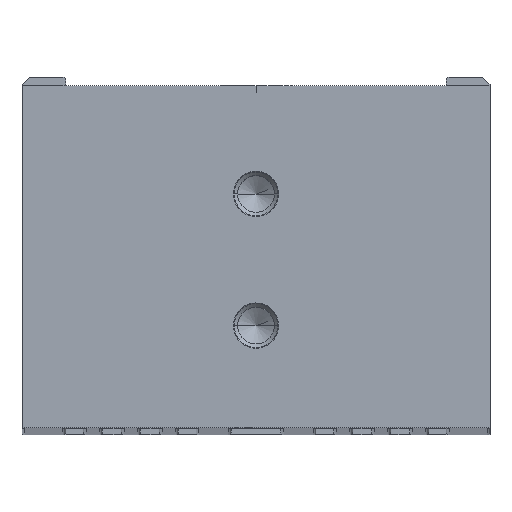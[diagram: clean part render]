
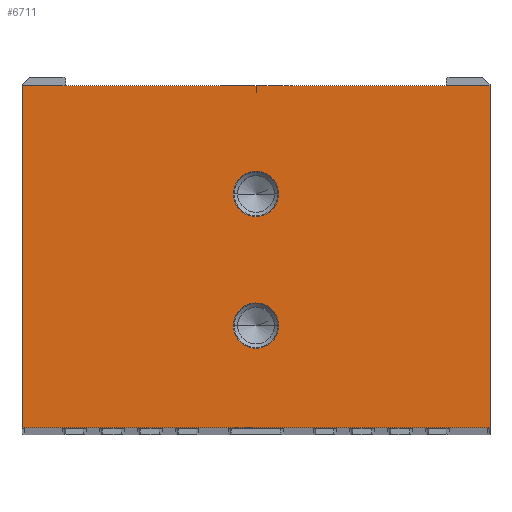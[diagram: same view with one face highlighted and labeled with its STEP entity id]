
A CAD part, top view. The second image highlights one B-rep face of the part: STEP entity #6711.
In plain terms, the highlighted planar face has unit normal (0, 0, 1).
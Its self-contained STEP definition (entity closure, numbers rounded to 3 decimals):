
#1380=DIRECTION('',(0.,-1.,0.));
#1381=VECTOR('',#1380,23.4);
#1382=CARTESIAN_POINT('',(-16.,11.402,137.5));
#1383=LINE('',#1382,#1381);
#1384=DIRECTION('',(-1.,0.,0.));
#1385=VECTOR('',#1384,32.);
#1386=CARTESIAN_POINT('',(16.,11.402,137.5));
#1387=LINE('',#1386,#1385);
#1388=DIRECTION('',(0.,1.,0.));
#1389=VECTOR('',#1388,23.4);
#1390=CARTESIAN_POINT('',(16.,-11.998,137.5));
#1391=LINE('',#1390,#1389);
#1392=DIRECTION('',(1.,0.,0.));
#1393=VECTOR('',#1392,32.);
#1394=CARTESIAN_POINT('',(-16.,-11.998,137.5));
#1395=LINE('',#1394,#1393);
#1396=CARTESIAN_POINT('',(0.,4.002,137.5));
#1397=DIRECTION('',(0.,0.,-1.));
#1398=DIRECTION('',(1.,0.,0.));
#1399=AXIS2_PLACEMENT_3D('',#1396,#1397,#1398);
#1401=CARTESIAN_POINT('',(0.,4.002,137.5));
#1402=DIRECTION('',(0.,0.,-1.));
#1403=DIRECTION('',(-1.,0.,0.));
#1404=AXIS2_PLACEMENT_3D('',#1401,#1402,#1403);
#1406=CARTESIAN_POINT('',(0.,-4.998,137.5));
#1407=DIRECTION('',(0.,0.,-1.));
#1408=DIRECTION('',(1.,0.,0.));
#1409=AXIS2_PLACEMENT_3D('',#1406,#1407,#1408);
#1411=CARTESIAN_POINT('',(0.,-4.998,
137.5));
#1412=DIRECTION('',(0.,0.,-1.));
#1413=DIRECTION('',(-1.,0.,0.));
#1414=AXIS2_PLACEMENT_3D('',#1411,#1412,#1413);
#3146=CARTESIAN_POINT('',(-16.,11.402,137.5));
#3147=CARTESIAN_POINT('',(-16.,-11.998,137.5));
#3148=VERTEX_POINT('',#3146);
#3149=VERTEX_POINT('',#3147);
#3150=CARTESIAN_POINT('',(16.,-11.998,137.5));
#3151=VERTEX_POINT('',#3150);
#3152=CARTESIAN_POINT('',(16.,11.402,137.5));
#3153=VERTEX_POINT('',#3152);
#4082=CARTESIAN_POINT('',(1.55,4.002,137.5));
#4083=CARTESIAN_POINT('',(-1.55,4.002,137.5));
#4084=VERTEX_POINT('',#4082);
#4085=VERTEX_POINT('',#4083);
#4090=CARTESIAN_POINT('',(1.55,-4.998,137.5));
#4091=CARTESIAN_POINT('',(-1.55,-4.998,
137.5));
#4092=VERTEX_POINT('',#4090);
#4093=VERTEX_POINT('',#4091);
#6688=CARTESIAN_POINT('',(0.,0.,137.5));
#6689=DIRECTION('',(0.,0.,1.));
#6690=DIRECTION('',(1.,0.,0.));
#6691=AXIS2_PLACEMENT_3D('',#6688,#6689,#6690);
#6692=PLANE('',#6691);
#6693=ORIENTED_EDGE('',*,*,#4282,.F.);
#6694=ORIENTED_EDGE('',*,*,#4187,.F.);
#6695=ORIENTED_EDGE('',*,*,#5040,.F.);
#6696=ORIENTED_EDGE('',*,*,#6413,.F.);
#6697=EDGE_LOOP('',(#6693,#6694,#6695,#6696));
#6698=FACE_OUTER_BOUND('',#6697,.F.);
#6700=ORIENTED_EDGE('',*,*,#6699,.F.);
#6702=ORIENTED_EDGE('',*,*,#6701,.F.);
#6703=EDGE_LOOP('',(#6700,#6702));
#6704=FACE_BOUND('',#6703,.F.);
#6706=ORIENTED_EDGE('',*,*,#6705,.F.);
#6708=ORIENTED_EDGE('',*,*,#6707,.F.);
#6709=EDGE_LOOP('',(#6706,#6708));
#6710=FACE_BOUND('',#6709,.F.);
#1400=CIRCLE('',#1399,1.55);
#1405=CIRCLE('',#1404,1.55);
#1410=CIRCLE('',#1409,1.55);
#1415=CIRCLE('',#1414,1.55);
#4187=EDGE_CURVE('',#3153,#3148,#1387,.T.);
#4282=EDGE_CURVE('',#3148,#3149,#1383,.T.);
#5040=EDGE_CURVE('',#3151,#3153,#1391,.T.);
#6413=EDGE_CURVE('',#3149,#3151,#1395,.T.);
#6699=EDGE_CURVE('',#4084,#4085,#1400,.T.);
#6701=EDGE_CURVE('',#4085,#4084,#1405,.T.);
#6705=EDGE_CURVE('',#4092,#4093,#1410,.T.);
#6707=EDGE_CURVE('',#4093,#4092,#1415,.T.);
#6711=ADVANCED_FACE('',(#6698,#6704,#6710),#6692,.T.);
